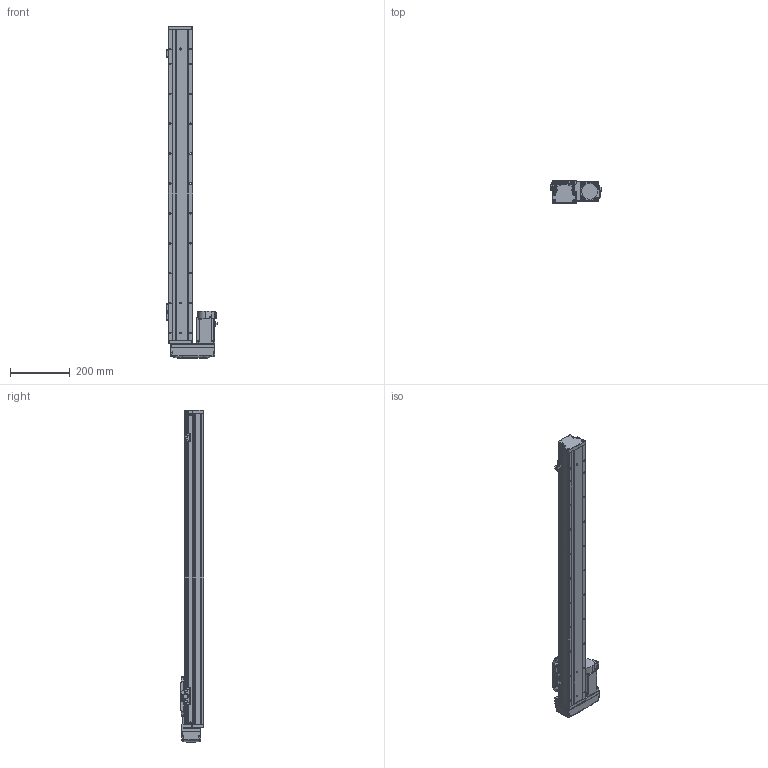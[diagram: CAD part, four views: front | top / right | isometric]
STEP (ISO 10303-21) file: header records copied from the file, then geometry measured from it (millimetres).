
FILE_DESCRIPTION (( 'STEP AP203' ), '1' );
FILE_NAME ('GTH8-850-BR-M20-C4.step', '2022-09-23T01:11:45', ( '微软用户' ), ( '微软中国' ), 'SwSTEP 2.0', 'SolidWorks 2020', '' );
FILE_SCHEMA (( 'CONFIG_CONTROL_DESIGN' ));
Length unit declared in the file: millimetre
Products named in the file (18): GTH80-022; BTH-M3X5X6; GTH80-001_850; GBT 70.1-M3℅6; hg-kn43j_-s100_; GTH80-003; GBT 70.1-M4×16; CTHA86-015-1_CTHA86-015-2; GTH80-004; GTH80-028; CTHA86-033_M40B; GTH80-006; GTH50-024; GTH8-850-BR-M20-C4; GTH80-013; GTH50-023; GBT 70.3-M3℅6; GBT96.1-2002 3×0.8
Assembly tree (57 placements, depth 2):
  GTH8-850-BR-M20-C4
    GTH80-001_850
    GTH80-003
    GTH80-004
    GTH80-006
    GTH80-013
    GBT 70.3-M3℅6  x4
    GTH80-022
    GBT 70.1-M3℅6  x14
    GBT 70.1-M4×16  x8
    GTH80-028  x2
    GTH50-024  x3
    GTH50-023  x3
    GBT96.1-2002 3×0.8  x6
    BTH-M3X5X6  x8
    hg-kn43j_-s100_
    CTHA86-015-1_CTHA86-015-2
    CTHA86-033_M40B
Bounding box: 169.7 x 78 x 1111 mm (x, y, z)
Volume: 5490836.8 mm3; surface area: 547481.9 mm2
Topology: 59 solids, 59 shells, 2252 faces, 5211 edges, 3195 vertices
Faces by surface type: plane 1187, cylinder 623, cone 260, torus 166, bspline 8, sphere 8
Entity records: 41366 total; most frequent: CARTESIAN_POINT 7265, DIRECTION 6733, ORIENTED_EDGE 6240, EDGE_CURVE 3120, AXIS2_PLACEMENT_3D 2361, VECTOR 2011, LINE 2011, VERTEX_POINT 1970
